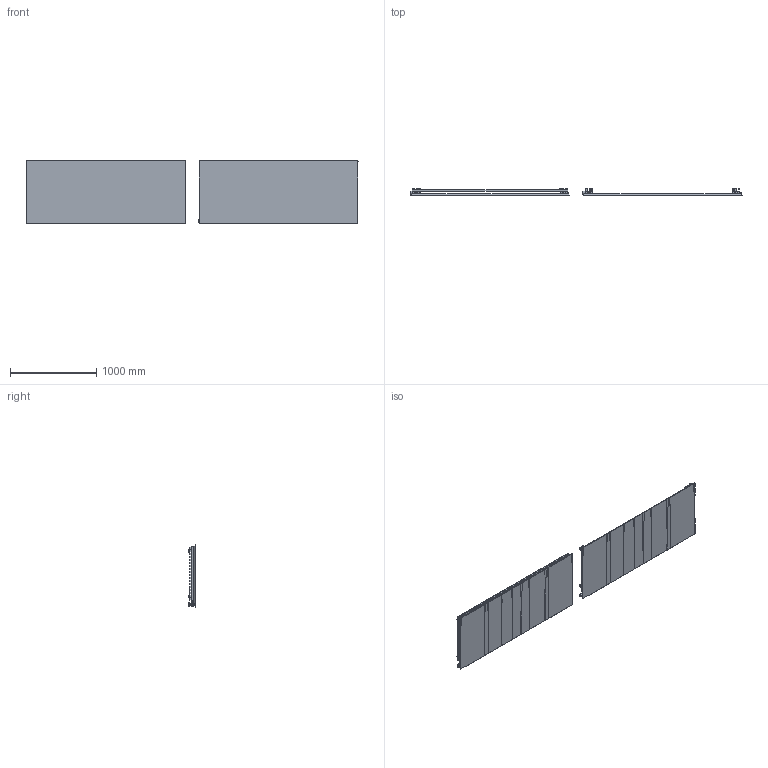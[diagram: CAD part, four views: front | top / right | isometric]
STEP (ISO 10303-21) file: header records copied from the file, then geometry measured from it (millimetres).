
FILE_DESCRIPTION ((), '1');
FILE_NAME ('/Users/melo21casa/Desktop/3D x Diliberto/LAMINA/Lamina LAV e LADV 73-184.stp', '2025-09-17T18:04:18', ('Unknown'), ('Unknown'), 'HarmonyWare STEP v2.1.7', 'Vectorworks', '');
FILE_SCHEMA (('CONFIG_CONTROL_DESIGN'));
Bounding box: 3848.44 x 90.08 x 724.92 mm (x, y, z)
Volume: 15810216.4 mm3; surface area: 9320604.2 mm2
Topology: 93 solids, 1951 shells, 3752 faces, 12158 edges, 10300 vertices
Faces by surface type: bspline 3752
Entity records: 194094 total; most frequent: CARTESIAN_POINT 129222, ORIENTED_EDGE 15818, EDGE_CURVE 11588, B_SPLINE_CURVE_WITH_KNOTS 10006, VERTEX_POINT 9916, EDGE_LOOP 3872, FACE_OUTER_BOUND 3752, ADVANCED_FACE 3752
